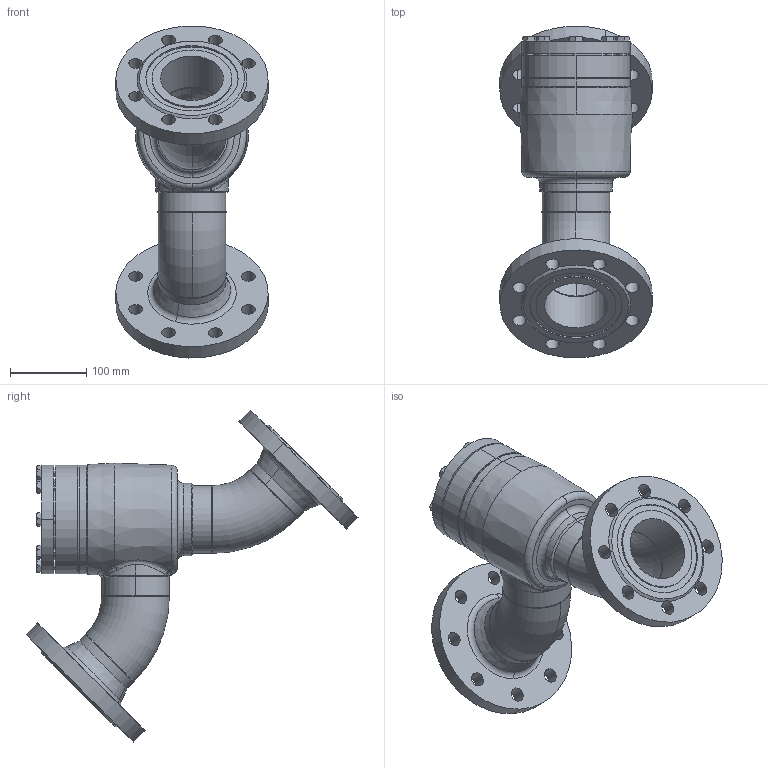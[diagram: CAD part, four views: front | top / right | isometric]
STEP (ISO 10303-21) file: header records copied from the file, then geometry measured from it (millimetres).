
FILE_DESCRIPTION (( 'STEP AP214' ), '1' );
FILE_NAME ('RV28320D18-DN080_DIN-FL-N_PS40.STEP', '2007-01-08T07:36:15', ( 'Herr Grams' ), ( 'AWP GmbH' ), 'SwSTEP 2.0', 'SolidWorks 2002296', '' );
FILE_SCHEMA (( 'AUTOMOTIVE_DESIGN' ));
Length unit declared in the file: millimetre
Products named in the file (16): RV28320D18-DN080_DIN-FL-N_PS40; Gehäuse-kpl16320-DN080_DIN_PS40_Standard; bead-DN080-6_Standard; bead-DN080-7_Standard; Gehäuse-kpl16300-DN080_R1_Standard; Gehäuse-kpl16400-DN080_R1_Standard; Gehäuse16400-DN080_Standard; Kopfstück16300-DN080_Standard; bead-DN080-1_Standard; Rohrbogen 45°_Rohrbogen-DN080-45°; bead-DN080-3_Standard; bead-DN080-2_Standard; Flansch-DIN-Nut_PS40_DIN-Flansch-DN080_PS40-Nut; RV28300E18_Deck+Schr-DN80_Standard; Deckel28300E18-DN80_Standard; Sechskantschraube-DIN933_M10x 30
Assembly tree (24 placements, depth 5):
  RV28320D18-DN080_DIN-FL-N_PS40
    Gehäuse-kpl16320-DN080_DIN_PS40_Standard
      Flansch-DIN-Nut_PS40_DIN-Flansch-DN080_PS40-Nut  x2
      Gehäuse-kpl16300-DN080_R1_Standard
        Rohrbogen 45°_Rohrbogen-DN080-45°  x2
        bead-DN080-3_Standard
        Gehäuse-kpl16400-DN080_R1_Standard
          bead-DN080-1_Standard
          Kopfstück16300-DN080_Standard
          Gehäuse16400-DN080_Standard
        bead-DN080-2_Standard
      bead-DN080-7_Standard
      bead-DN080-6_Standard
    RV28300E18_Deck+Schr-DN80_Standard
      Sechskantschraube-DIN933_M10x 30  x8
      Deckel28300E18-DN80_Standard
Bounding box: 199.81 x 435.48 x 435.48 mm (x, y, z)
Volume: 3009688.9 mm3; surface area: 594715.1 mm2
Topology: 20 solids, 20 shells, 407 faces, 934 edges, 573 vertices
Faces by surface type: cone 131, cylinder 118, plane 112, bspline 28, torus 18
Entity records: 18942 total; most frequent: CARTESIAN_POINT 13829, DIRECTION 937, ORIENTED_EDGE 888, EDGE_CURVE 444, AXIS2_PLACEMENT_3D 420, VERTEX_POINT 281, EDGE_LOOP 243, CIRCLE 229
